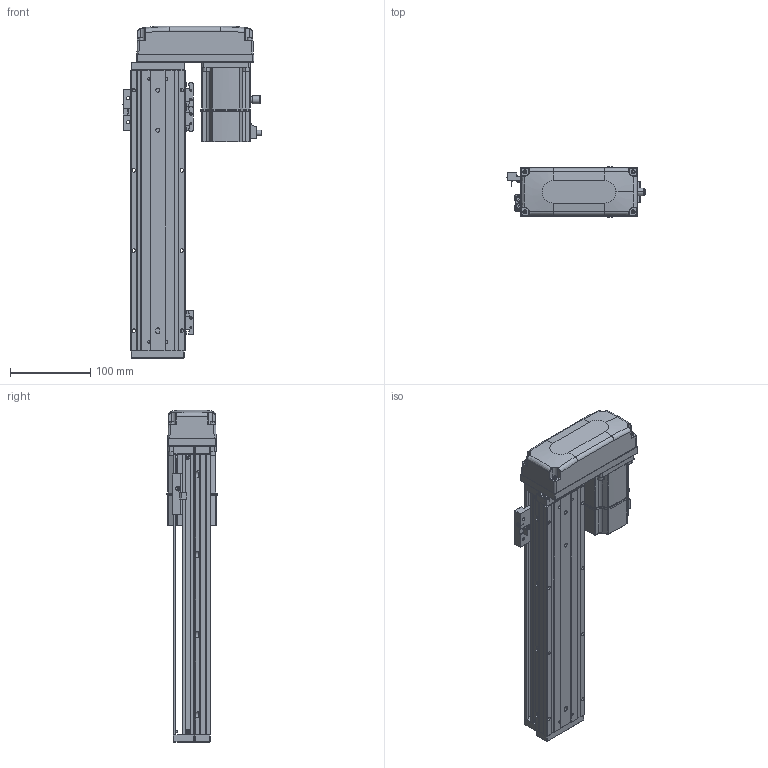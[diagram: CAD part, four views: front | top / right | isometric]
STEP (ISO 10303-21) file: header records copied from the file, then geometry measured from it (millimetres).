
FILE_DESCRIPTION (( 'STEP AP203' ), '1' );
FILE_NAME ('KTHA60-250-BL-M20-C4L.step', '2022-12-16T01:31:46', ( '微软用户' ), ( '微软中国' ), 'SwSTEP 2.0', 'SolidWorks 2020', '' );
FILE_SCHEMA (( 'CONFIG_CONTROL_DESIGN' ));
Length unit declared in the file: millimetre
Products named in the file (17): KTHA60-005; GBT77-2000M3-3; GB¨uT 70.2-M3¡Á5_M3¡Á6; GBT 70.1-M3℅6; BTH80-026; GBT 70.3-M3℅6; CTHA60-016; CTHA60-006-2_CTHA60-006-2; EE_SX911P_R; KTHA60-002; _X2_4E0983F1_X0_200W_1; CTHA60-017; KTHA60-250-BL-M20-C4L; KTHA60-001_350; CTHA60-021; KTHA60-004; GBT 70.1-M4×16
Assembly tree (51 placements, depth 2):
  KTHA60-250-BL-M20-C4L
    KTHA60-001_350
    KTHA60-004
    KTHA60-005
    GB¨uT 70.2-M3¡Á5_M3¡Á6  x6
    GBT 70.3-M3℅6  x4
    EE_SX911P_R  x3
    CTHA60-017  x3
    CTHA60-021  x2
    GBT 70.1-M4×16  x8
    GBT77-2000M3-3  x6
    GBT 70.1-M3℅6  x10
    CTHA60-016  x2
    KTHA60-002
    BTH80-026
    CTHA60-006-2_CTHA60-006-2
    _X2_4E0983F1_X0_200W_1
Bounding box: 172.1 x 62.42 x 414 mm (x, y, z)
Volume: 1099160.2 mm3; surface area: 289862.1 mm2
Topology: 54 solids, 54 shells, 2388 faces, 5661 edges, 3478 vertices
Faces by surface type: plane 1261, cylinder 632, cone 278, bspline 109, torus 92, sphere 16
Entity records: 43594 total; most frequent: CARTESIAN_POINT 10258, ORIENTED_EDGE 6370, DIRECTION 6368, EDGE_CURVE 3185, AXIS2_PLACEMENT_3D 2207, VERTEX_POINT 1987, LINE 1954, VECTOR 1954
